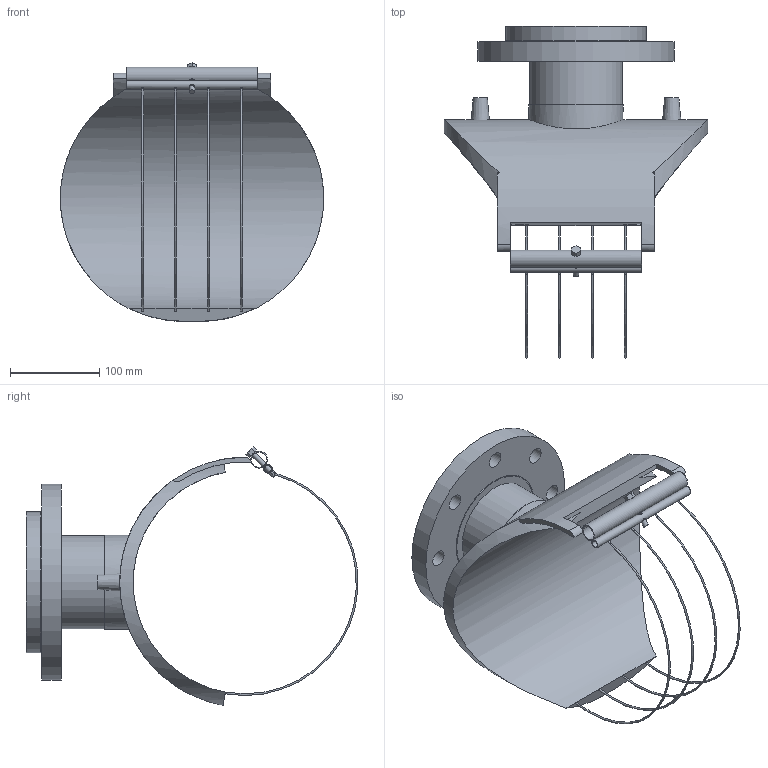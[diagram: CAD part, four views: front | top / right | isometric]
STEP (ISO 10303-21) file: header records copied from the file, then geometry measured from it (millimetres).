
FILE_DESCRIPTION(/* description */ ('Plasson Flanged Branch Saddle 250x100'),/* implementation_level */ '2;1');
FILE_NAME(/* name */ 'C:\Dropbox\99-16-3568-Processing\ElectroFusion Fittings\4959X4\stp\4959X4250100T.stp',/* time_stamp */ '2022-04-28T11:37:54+03:00',/* author */ ('KIM'),/* organization */ (''),/* preprocessor_version */ 'ST-DEVELOPER v17.2',/* originating_system */ 'Autodesk Inventor 2019',/* authorisation */ '');
FILE_SCHEMA (('AUTOMOTIVE_DESIGN { 1 0 10303 214 3 1 1 }'));
Length unit declared in the file: millimetre
Products named in the file (1): 4959X4250100T
Bounding box: 295 x 371.83 x 289.77 mm (x, y, z)
Volume: 2368565.2 mm3; surface area: 409050.4 mm2
Topology: 2 solids, 2 shells, 81 faces, 245 edges, 170 vertices
Faces by surface type: cylinder 40, plane 31, torus 8, cone 2
Full cylindrical faces by diameter (mm): 6 x3, 7.6 x1, 8 x1, 16 x1, 17.2 x1, 18 x8, 87 x1, 104.4 x1, 105.4 x1, 121.8 x1, 123.8 x1, 158 x1, 220 x1
Entity records: 3786 total; most frequent: CARTESIAN_POINT 1410, ORIENTED_EDGE 494, DIRECTION 485, EDGE_CURVE 247, AXIS2_PLACEMENT_3D 204, VERTEX_POINT 170, EDGE_LOOP 121, CIRCLE 116
